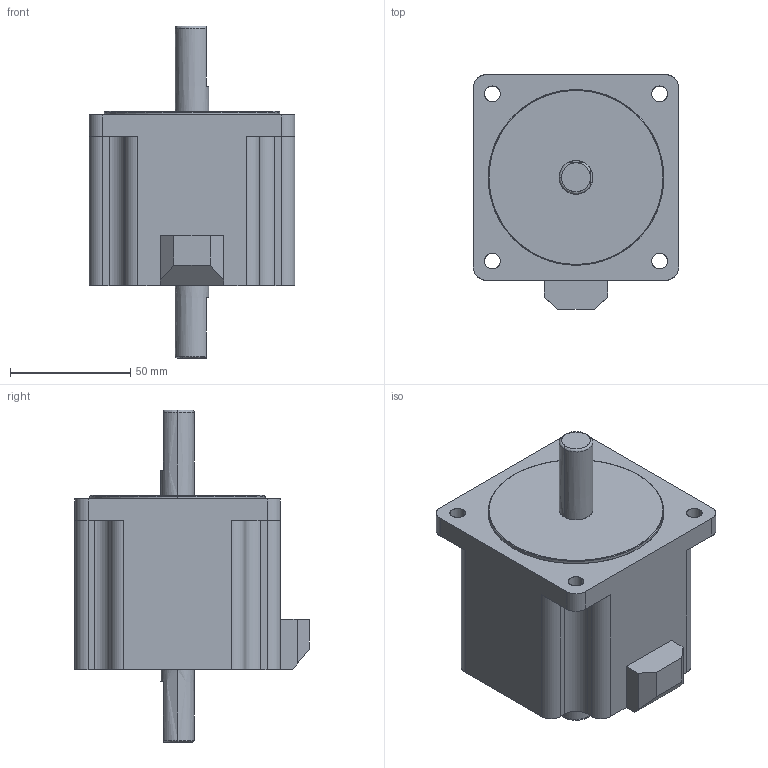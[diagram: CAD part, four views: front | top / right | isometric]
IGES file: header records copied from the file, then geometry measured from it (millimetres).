
Start section: SolidWorks IGES file using analytic representation for surfaces
Bounding box: 85.5 x 97.5 x 138.1 mm (x, y, z)
Surface area: 43070.7 mm2 (no closed solid volume)
Topology: 0 solids, 0 shells, 80 faces, 1502 edges, 1502 vertices
Faces by surface type: bspline 44, revolution 36
